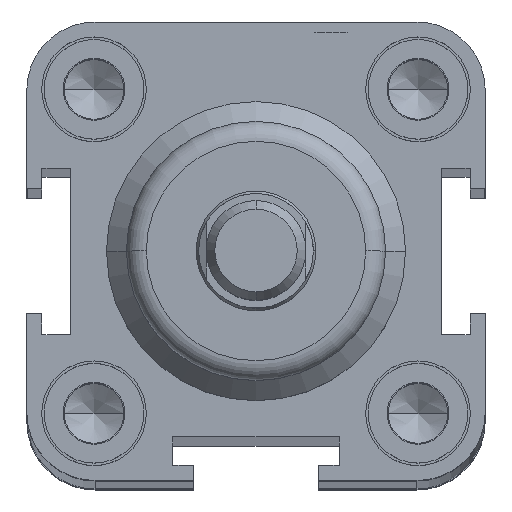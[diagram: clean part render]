
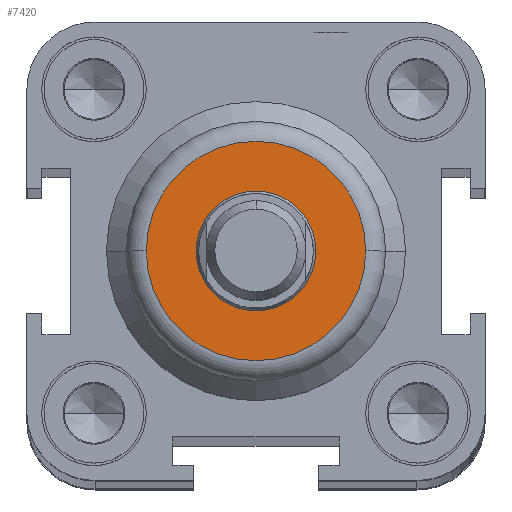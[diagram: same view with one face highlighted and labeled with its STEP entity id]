
A CAD part, top view. The second image highlights one B-rep face of the part: STEP entity #7420.
In plain terms, the highlighted planar face has unit normal (0, 0, 1).
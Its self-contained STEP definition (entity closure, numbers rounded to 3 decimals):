
#1472=CARTESIAN_POINT('',(-11.,0.0,288.0));
#1473=VERTEX_POINT('',#1472);
#1481=CARTESIAN_POINT('',(11.,0.,288.0));
#1482=VERTEX_POINT('',#1481);
#1483=CARTESIAN_POINT('',(0.0,0.0,288.0));
#1484=DIRECTION('',(0.0,0.0,-1.0));
#1485=DIRECTION('',(-1.0,0.0,0.0));
#1486=AXIS2_PLACEMENT_3D('',#1483,#1484,#1485);
#1487=CIRCLE('',#1486,11.);
#1488=EDGE_CURVE('',#1473,#1482,#1487,.T.);
#1593=CARTESIAN_POINT('',(6.,0.0,288.0));
#1594=VERTEX_POINT('',#1593);
#1610=CARTESIAN_POINT('',(-6.,0.,288.0));
#1611=VERTEX_POINT('',#1610);
#1618=CARTESIAN_POINT('',(0.0,0.0,288.0));
#1619=DIRECTION('',(0.0,0.0,-1.0));
#1620=DIRECTION('',(1.0,0.0,0.0));
#1621=AXIS2_PLACEMENT_3D('',#1618,#1619,#1620);
#1622=CIRCLE('',#1621,6.);
#1623=EDGE_CURVE('',#1594,#1611,#1622,.T.);
#7347=CARTESIAN_POINT('',(0.0,0.0,288.0));
#7348=DIRECTION('',(0.0,0.0,-1.0));
#7349=DIRECTION('',(1.0,0.0,0.0));
#7350=AXIS2_PLACEMENT_3D('',#7347,#7348,#7349);
#7351=CIRCLE('',#7350,6.);
#7352=EDGE_CURVE('',#1611,#1594,#7351,.T.);
#7401=CARTESIAN_POINT('',(-5.5,0.0,288.0));
#7402=DIRECTION('',(0.0,0.0,1.0));
#7403=DIRECTION('',(1.0,0.0,0.0));
#7404=AXIS2_PLACEMENT_3D('',#7401,#7402,#7403);
#7405=PLANE('',#7404);
#7406=ORIENTED_EDGE('',*,*,#1488,.F.);
#7407=CARTESIAN_POINT('',(0.0,0.0,288.0));
#7408=DIRECTION('',(0.0,0.0,-1.0));
#7409=DIRECTION('',(-1.0,0.0,0.0));
#7410=AXIS2_PLACEMENT_3D('',#7407,#7408,#7409);
#7411=CIRCLE('',#7410,11.);
#7412=EDGE_CURVE('',#1482,#1473,#7411,.T.);
#7413=ORIENTED_EDGE('',*,*,#7412,.F.);
#7414=EDGE_LOOP('',(#7406,#7413));
#7415=FACE_OUTER_BOUND('',#7414,.T.);
#7416=ORIENTED_EDGE('',*,*,#1623,.T.);
#7417=ORIENTED_EDGE('',*,*,#7352,.T.);
#7418=EDGE_LOOP('',(#7416,#7417));
#7419=FACE_BOUND('',#7418,.T.);
#7420=ADVANCED_FACE('',(#7415,#7419),#7405,.T.);
